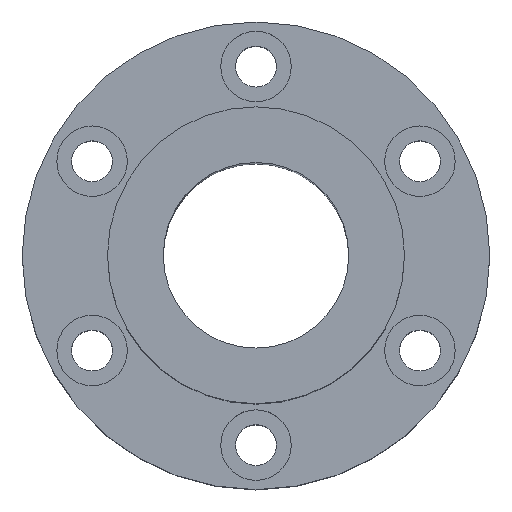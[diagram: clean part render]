
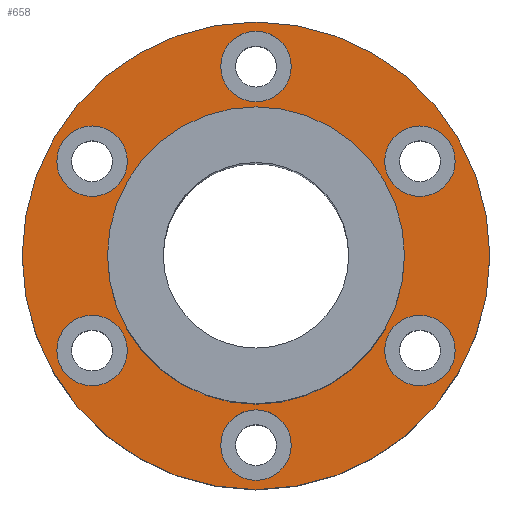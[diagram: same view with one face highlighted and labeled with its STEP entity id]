
A CAD part, top view. The second image highlights one B-rep face of the part: STEP entity #658.
In plain terms, the highlighted planar face has unit normal (0, 0, 1).
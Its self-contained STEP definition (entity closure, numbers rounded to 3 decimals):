
#1=CARTESIAN_POINT('',(0.,0.,14.5));
#2=DIRECTION('',(0.,0.,-1.));
#3=DIRECTION('',(-1.,0.,0.));
#4=AXIS2_PLACEMENT_3D('',#1,#2,#3);
#6=CARTESIAN_POINT('',(0.,0.,14.5));
#7=DIRECTION('',(0.,0.,-1.));
#8=DIRECTION('',(1.,0.,0.));
#9=AXIS2_PLACEMENT_3D('',#6,#7,#8);
#11=CARTESIAN_POINT('',(22.084,-12.75,14.5));
#12=DIRECTION('',(0.,0.,1.));
#13=DIRECTION('',(0.5,0.866,0.));
#14=AXIS2_PLACEMENT_3D('',#11,#12,#13);
#16=CARTESIAN_POINT('',(22.084,-12.75,14.5));
#17=DIRECTION('',(0.,0.,1.));
#18=DIRECTION('',(-0.5,-0.866,0.));
#19=AXIS2_PLACEMENT_3D('',#16,#17,#18);
#21=CARTESIAN_POINT('',(-22.084,-12.75,14.5));
#22=DIRECTION('',(0.,0.,1.));
#23=DIRECTION('',(0.5,-0.866,0.));
#24=AXIS2_PLACEMENT_3D('',#21,#22,#23);
#26=CARTESIAN_POINT('',(-22.084,-12.75,14.5));
#27=DIRECTION('',(0.,0.,1.));
#28=DIRECTION('',(-0.5,0.866,0.));
#29=AXIS2_PLACEMENT_3D('',#26,#27,#28);
#31=CARTESIAN_POINT('',(0.,25.5,14.5));
#32=DIRECTION('',(0.,0.,1.));
#33=DIRECTION('',(-1.,0.,0.));
#34=AXIS2_PLACEMENT_3D('',#31,#32,#33);
#36=CARTESIAN_POINT('',(0.,25.5,14.5));
#37=DIRECTION('',(0.,0.,1.));
#38=DIRECTION('',(1.,0.,0.));
#39=AXIS2_PLACEMENT_3D('',#36,#37,#38);
#41=CARTESIAN_POINT('',(0.,0.,14.5));
#42=DIRECTION('',(0.,0.,1.));
#43=DIRECTION('',(-1.,0.,0.));
#44=AXIS2_PLACEMENT_3D('',#41,#42,#43);
#46=CARTESIAN_POINT('',(0.,0.,14.5));
#47=DIRECTION('',(0.,0.,1.));
#48=DIRECTION('',(1.,0.,0.));
#49=AXIS2_PLACEMENT_3D('',#46,#47,#48);
#51=CARTESIAN_POINT('',(-22.084,12.75,14.5));
#52=DIRECTION('',(0.,0.,1.));
#53=DIRECTION('',(-0.5,-0.866,0.));
#54=AXIS2_PLACEMENT_3D('',#51,#52,#53);
#56=CARTESIAN_POINT('',(-22.084,12.75,14.5));
#57=DIRECTION('',(0.,0.,1.));
#58=DIRECTION('',(0.5,0.866,0.));
#59=AXIS2_PLACEMENT_3D('',#56,#57,#58);
#61=CARTESIAN_POINT('',(0.,-25.5,14.5));
#62=DIRECTION('',(0.,0.,1.));
#63=DIRECTION('',(1.,0.,0.));
#64=AXIS2_PLACEMENT_3D('',#61,#62,#63);
#66=CARTESIAN_POINT('',(0.,-25.5,14.5));
#67=DIRECTION('',(0.,0.,1.));
#68=DIRECTION('',(-1.,0.,0.));
#69=AXIS2_PLACEMENT_3D('',#66,#67,#68);
#71=CARTESIAN_POINT('',(22.084,12.75,14.5));
#72=DIRECTION('',(0.,0.,1.));
#73=DIRECTION('',(-0.5,0.866,0.));
#74=AXIS2_PLACEMENT_3D('',#71,#72,#73);
#76=CARTESIAN_POINT('',(22.084,12.75,14.5));
#77=DIRECTION('',(0.,0.,1.));
#78=DIRECTION('',(0.5,-0.866,0.));
#79=AXIS2_PLACEMENT_3D('',#76,#77,#78);
#469=CARTESIAN_POINT('',(-31.5,0.,14.5));
#470=CARTESIAN_POINT('',(31.5,0.,14.5));
#471=VERTEX_POINT('',#469);
#472=VERTEX_POINT('',#470);
#473=CARTESIAN_POINT('',(24.459,-8.636,14.5));
#474=CARTESIAN_POINT('',(19.709,-16.864,14.5));
#475=VERTEX_POINT('',#473);
#476=VERTEX_POINT('',#474);
#477=CARTESIAN_POINT('',(-19.709,-16.864,14.5));
#478=CARTESIAN_POINT('',(-24.459,-8.636,14.5));
#479=VERTEX_POINT('',#477);
#480=VERTEX_POINT('',#478);
#481=CARTESIAN_POINT('',(-4.75,25.5,14.5));
#482=CARTESIAN_POINT('',(4.75,25.5,14.5));
#483=VERTEX_POINT('',#481);
#484=VERTEX_POINT('',#482);
#485=CARTESIAN_POINT('',(-24.459,8.636,14.5));
#486=CARTESIAN_POINT('',(-19.709,16.864,14.5));
#487=VERTEX_POINT('',#485);
#488=VERTEX_POINT('',#486);
#489=CARTESIAN_POINT('',(4.75,-25.5,14.5));
#490=CARTESIAN_POINT('',(-4.75,-25.5,14.5));
#491=VERTEX_POINT('',#489);
#492=VERTEX_POINT('',#490);
#493=CARTESIAN_POINT('',(19.709,16.864,14.5));
#494=CARTESIAN_POINT('',(24.459,8.636,14.5));
#495=VERTEX_POINT('',#493);
#496=VERTEX_POINT('',#494);
#589=CARTESIAN_POINT('',(-20.,0.,14.5));
#590=CARTESIAN_POINT('',(20.,0.,14.5));
#591=VERTEX_POINT('',#589);
#592=VERTEX_POINT('',#590);
#605=CARTESIAN_POINT('',(0.,0.,14.5));
#606=DIRECTION('',(0.,0.,1.));
#607=DIRECTION('',(1.,0.,0.));
#608=AXIS2_PLACEMENT_3D('',#605,#606,#607);
#609=PLANE('',#608);
#611=ORIENTED_EDGE('',*,*,#610,.T.);
#613=ORIENTED_EDGE('',*,*,#612,.T.);
#614=EDGE_LOOP('',(#611,#613));
#615=FACE_OUTER_BOUND('',#614,.F.);
#617=ORIENTED_EDGE('',*,*,#616,.T.);
#619=ORIENTED_EDGE('',*,*,#618,.T.);
#620=EDGE_LOOP('',(#617,#619));
#621=FACE_BOUND('',#620,.F.);
#623=ORIENTED_EDGE('',*,*,#622,.T.);
#625=ORIENTED_EDGE('',*,*,#624,.T.);
#626=EDGE_LOOP('',(#623,#625));
#627=FACE_BOUND('',#626,.F.);
#629=ORIENTED_EDGE('',*,*,#628,.T.);
#631=ORIENTED_EDGE('',*,*,#630,.T.);
#632=EDGE_LOOP('',(#629,#631));
#633=FACE_BOUND('',#632,.F.);
#635=ORIENTED_EDGE('',*,*,#634,.T.);
#637=ORIENTED_EDGE('',*,*,#636,.T.);
#638=EDGE_LOOP('',(#635,#637));
#639=FACE_BOUND('',#638,.F.);
#641=ORIENTED_EDGE('',*,*,#640,.T.);
#643=ORIENTED_EDGE('',*,*,#642,.T.);
#644=EDGE_LOOP('',(#641,#643));
#645=FACE_BOUND('',#644,.F.);
#647=ORIENTED_EDGE('',*,*,#646,.T.);
#649=ORIENTED_EDGE('',*,*,#648,.T.);
#650=EDGE_LOOP('',(#647,#649));
#651=FACE_BOUND('',#650,.F.);
#653=ORIENTED_EDGE('',*,*,#652,.T.);
#655=ORIENTED_EDGE('',*,*,#654,.T.);
#656=EDGE_LOOP('',(#653,#655));
#657=FACE_BOUND('',#656,.F.);
#658=ADVANCED_FACE('',(#615,#621,#627,#633,#639,#645,#651,#657),#609,.T.);
#5=CIRCLE('',#4,31.5);
#10=CIRCLE('',#9,31.5);
#15=CIRCLE('',#14,4.75);
#20=CIRCLE('',#19,4.75);
#25=CIRCLE('',#24,4.75);
#30=CIRCLE('',#29,4.75);
#35=CIRCLE('',#34,4.75);
#40=CIRCLE('',#39,4.75);
#45=CIRCLE('',#44,20.);
#50=CIRCLE('',#49,20.);
#55=CIRCLE('',#54,4.75);
#60=CIRCLE('',#59,4.75);
#65=CIRCLE('',#64,4.75);
#70=CIRCLE('',#69,4.75);
#75=CIRCLE('',#74,4.75);
#80=CIRCLE('',#79,4.75);
#610=EDGE_CURVE('',#471,#472,#5,.T.);
#612=EDGE_CURVE('',#472,#471,#10,.T.);
#616=EDGE_CURVE('',#475,#476,#15,.T.);
#618=EDGE_CURVE('',#476,#475,#20,.T.);
#622=EDGE_CURVE('',#479,#480,#25,.T.);
#624=EDGE_CURVE('',#480,#479,#30,.T.);
#628=EDGE_CURVE('',#483,#484,#35,.T.);
#630=EDGE_CURVE('',#484,#483,#40,.T.);
#634=EDGE_CURVE('',#591,#592,#45,.T.);
#636=EDGE_CURVE('',#592,#591,#50,.T.);
#640=EDGE_CURVE('',#487,#488,#55,.T.);
#642=EDGE_CURVE('',#488,#487,#60,.T.);
#646=EDGE_CURVE('',#491,#492,#65,.T.);
#648=EDGE_CURVE('',#492,#491,#70,.T.);
#652=EDGE_CURVE('',#495,#496,#75,.T.);
#654=EDGE_CURVE('',#496,#495,#80,.T.);
